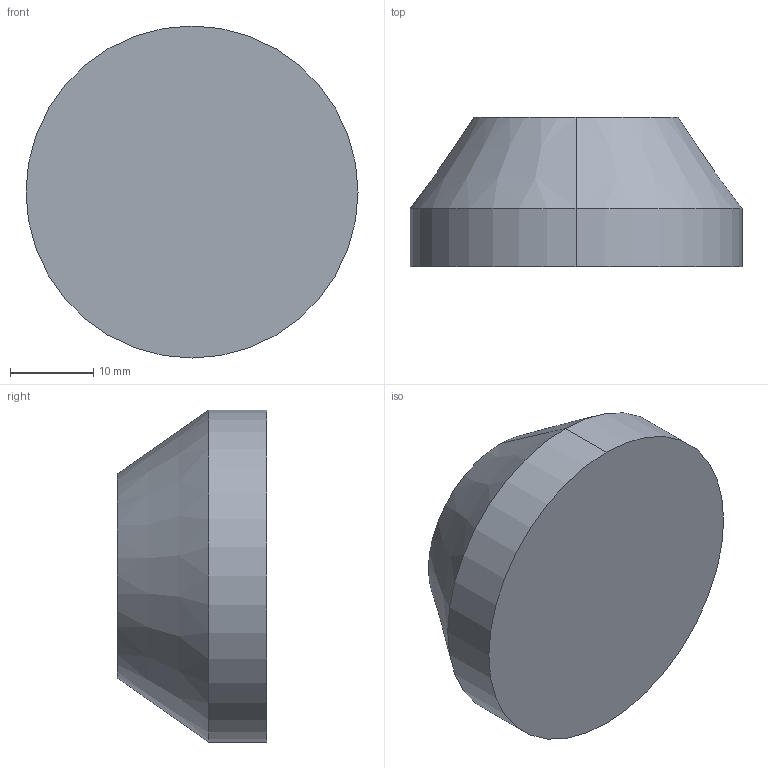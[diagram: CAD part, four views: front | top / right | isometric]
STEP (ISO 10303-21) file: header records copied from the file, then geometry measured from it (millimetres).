
FILE_DESCRIPTION (( 'STEP AP214' ), '1' );
FILE_NAME ('40mm stelvoet.STEP', '2019-04-12T07:50:29', ( '' ), ( '' ), 'SwSTEP 2.0', 'SolidWorks 2018', '' );
FILE_SCHEMA (( 'AUTOMOTIVE_DESIGN' ));
Length unit declared in the file: millimetre
Products named in the file (1): 40mm stelvoet
Bounding box: 40 x 18 x 40 mm (x, y, z)
Volume: 17626.2 mm3; surface area: 4121.3 mm2
Topology: 1 solids, 1 shells, 11 faces, 20 edges, 12 vertices
Faces by surface type: cylinder 4, plane 3, torus 2, cone 2
Entity records: 310 total; most frequent: DIRECTION 58, CARTESIAN_POINT 44, ORIENTED_EDGE 40, AXIS2_PLACEMENT_3D 26, EDGE_CURVE 20, CIRCLE 14, VERTEX_POINT 12, EDGE_LOOP 12
